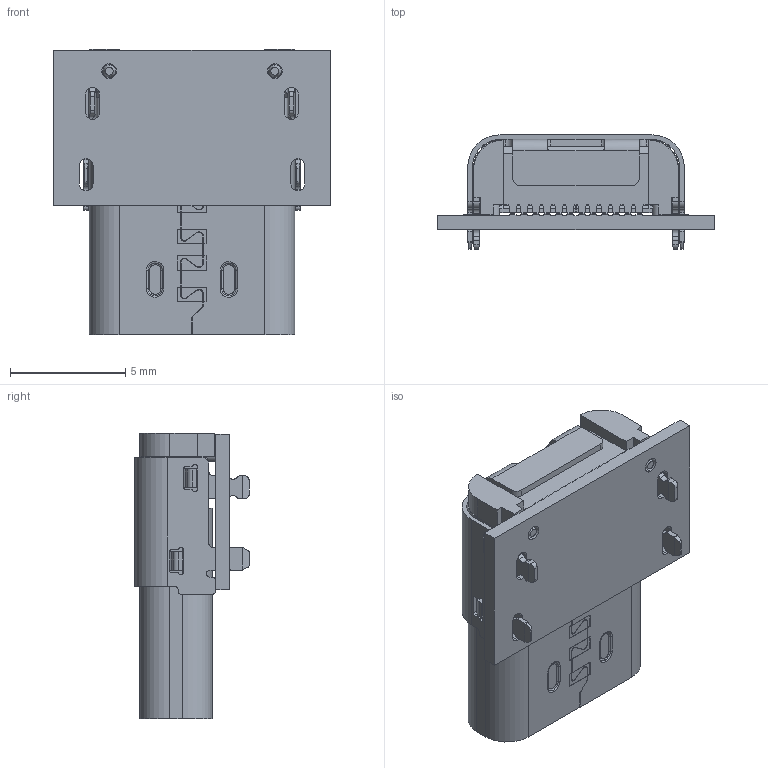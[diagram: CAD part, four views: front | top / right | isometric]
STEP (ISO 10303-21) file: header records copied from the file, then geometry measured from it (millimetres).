
FILE_DESCRIPTION (( 'STEP AP203' ), '1' );
FILE_NAME ('TYPE C加長雙貼-板上.STEP', '2019-02-16T06:49:38', ( '微軟用戶' ), ( '微軟中國' ), 'SwSTEP 2.0', 'SolidWorks 2007', '' );
FILE_SCHEMA (( 'CONFIG_CONTROL_DESIGN' ));
Products named in the file (39): 5_預設1_預設; 2_預設1_預設; 零件2_預設; 6_預設1_預設; housing2_預設; DIP_MOLDING-4_預設; 4_預設2_預設; 3_預設2_預設; 9_預設2_預設; 零件1_預設; I-SHELL_預設; 零件3_預設; TYPE C加長雙貼-板上; PCB-1_預設; DIP_MOLDING-3_預設; 8_預設1_預設; 12_預設1_預設; 10_預設1_預設; 3_預設1_預設; 4_預設1_預設; 11_預設1_預設; 1_預設1_預設; 7_預設1_預設; 9_預設1_預設; 10_預設2_預設; 8_預設2_預設; 12_預設2_預設; 5_預設2_預設; 2_預設2_預設; 6_預設2_預設; 11_預設2_預設; 1_預設2_預設; 7_預設2_預設; housing1_預設; PRT0026_預設_預設_預設; MOLDING_EMI_ASM-1_¹w³]_¹w³]_¹w³]_¹w³]_¹w³]; MOLDING_EMI-1_¹w³]_¹w³]_¹w³]_¹w³]_¹w³]_¹w³]; V-EMI_SHELL-1_¹w³]_¹w³]_¹w³]_¹w³]_¹w³]; O-SHELL_預設
Assembly tree (39 placements, depth 3):
  TYPE C加長雙貼-板上
    DIP_MOLDING-3_預設
      4_預設1_預設
      1_預設1_預設
      3_預設1_預設
      housing2_預設
      11_預設1_預設
      2_預設1_預設
      8_預設1_預設
      5_預設1_預設
      12_預設1_預設
      10_預設1_預設
      7_預設1_預設
      零件2_預設
      PRT0026_預設_預設_預設
      9_預設1_預設
      6_預設1_預設
    MOLDING_EMI_ASM-1_¹w³]_¹w³]_¹w³]_¹w³]_¹w³]
      MOLDING_EMI-1_¹w³]_¹w³]_¹w³]_¹w³]_¹w³]_¹w³]
      零件3_預設
      V-EMI_SHELL-1_¹w³]_¹w³]_¹w³]_¹w³]_¹w³]
    I-SHELL_預設
    PCB-1_預設
    O-SHELL_預設
    DIP_MOLDING-4_預設
      1_預設2_預設
      8_預設2_預設
      2_預設2_預設
      3_預設2_預設
      零件1_預設
      10_預設2_預設
      9_預設2_預設
      housing1_預設
      7_預設2_預設
      12_預設2_預設
      6_預設2_預設
      11_預設2_預設
      5_預設2_預設
      PRT0026_預設_預設_預設
      4_預設2_預設
Bounding box: 12 x 4.96 x 12.4 mm (x, y, z)
Volume: 279 mm3; surface area: 1722.7 mm2
Topology: 58 solids, 58 shells, 2136 faces, 5877 edges, 3888 vertices
Faces by surface type: plane 1455, cylinder 579, bspline 55, cone 35, torus 12
Entity records: 71658 total; most frequent: CARTESIAN_POINT 13403, ORIENTED_EDGE 11538, DIRECTION 11008, EDGE_CURVE 5769, VECTOR 4374, LINE 4374, VERTEX_POINT 3816, AXIS2_PLACEMENT_3D 3317
